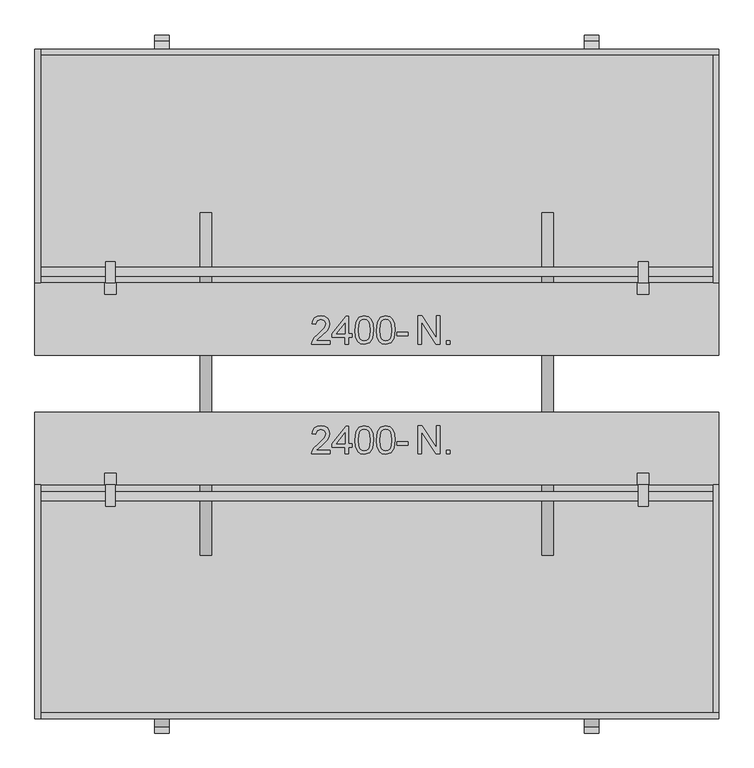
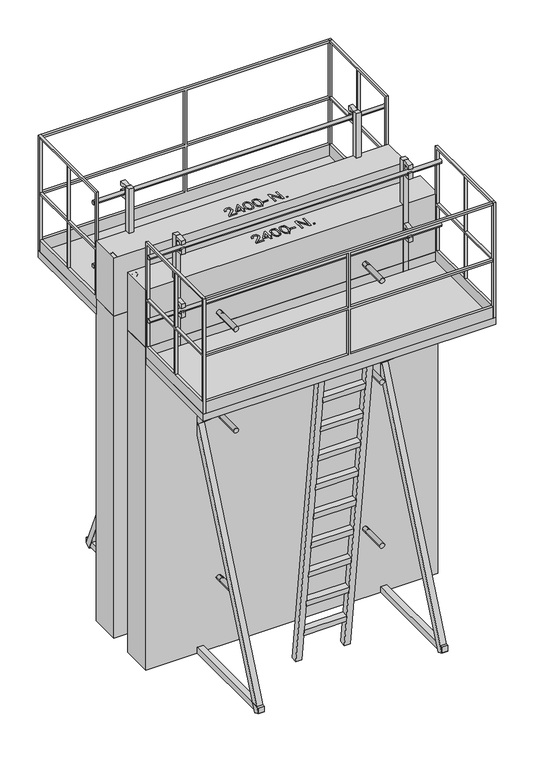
"""IFC4 building model written with IfcOpenShell, lengths in millimetres: proxy geometry, Hussor T10_Banche RNR : Hussor T10_Lg 2400_Ht 2800+500."""

from ifc_helpers import new_model, si_unit, point, frame, frame_2d, origin, origin_with_axes, place, context, project, spatial, polyline, circle_curve, trimmed, segment, composite_curve, outline, extrude, source, transform, mapped, element, save


def generic_models_483f2e62(model_context):
    return source(origin(), model_context, "Body", "SweptSolid", [
        extrude(outline(polyline([(1344.6271812, -345.1349459), (1344.6271812, -246.6734075), (1357.8002581, -246.6734075), (1409.2425658, -324.6782152), (1409.2425658, -246.6734075), (1421.5502581, -246.6734075), (1421.5502581, -345.1349459), (1408.3771812, -345.1349459), (1356.9348735, -267.1060998), (1356.9348735, -345.1349459), (1344.6271812, -345.1349459)])), origin_with_axes(), (0.0, 0.0, 1.0), 3300.0),
        extrude(outline(polyline([(1444.6271812, -345.1349459), (1444.6271812, -332.8272536), (1456.9348735, -332.8272536), (1456.9348735, -345.1349459), (1444.6271812, -345.1349459)])), origin_with_axes(), (0.0, 0.0, 1.0), 3300.0),
        extrude(outline(polyline([(1035.9319097, -332.8272536), (1035.9319097, -345.1349459), (971.316525, -345.1349459), (972.6386404, -336.649369), (980.114602, -323.5844652), (995.5232558, -309.3176383), (1016.7732558, -288.8128306), (1022.0857558, -274.8705229), (1017.0737366, -263.5844652), (1003.9847943, -258.9810998), (990.3429674, -263.4762921), (985.1626789, -275.9041767), (972.8549866, -274.3657152), (975.8387606, -262.4606671), (982.2900827, -253.7647536), (991.8724145, -248.446244), (1004.2492174, -246.6734075), (1016.7161645, -248.6445613), (1026.2804674, -254.5580229), (1032.3652029, -263.3921575), (1034.3934481, -274.1253306), (1032.2059481, -285.7960036), (1024.9343135, -297.8633113), (1007.302102, -314.7262921), (993.1434481, -326.5652344), (987.5905635, -332.8272536), (1035.9319097, -332.8272536)])), origin_with_axes(), (0.0, 0.0, 1.0), 3300.0),
        extrude(outline(polyline([(1088.239602, -345.1349459), (1088.239602, -322.0580229), (1043.6242174, -322.0580229), (1043.6242174, -309.7503306), (1091.316525, -248.211869), (1100.5472943, -248.211869), (1100.5472943, -309.7503306), (1112.8549866, -309.7503306), (1112.8549866, -322.0580229), (1100.5472943, -322.0580229), (1100.5472943, -345.1349459), (1088.239602, -345.1349459)]), holes=[polyline([(1088.239602, -309.7503306), (1088.239602, -271.7214844), (1058.7684481, -309.7503306), (1088.239602, -309.7503306)])]), origin_with_axes(), (0.0, 0.0, 1.0), 3300.0),
        extrude(outline(polyline([(1123.6242174, -296.6974459), (1127.2420058, -268.368119), (1137.9871981, -252.0339844), (1155.9319097, -246.6734075), (1170.3069097, -249.8464844), (1180.2347943, -258.993119), (1186.004025, -273.5604267), (1188.239602, -296.6974459), (1184.6578712, -324.9065806), (1173.9487366, -341.2767729), (1155.9319097, -346.6734075), (1143.1434481, -344.3296575), (1133.4319097, -337.2984075), (1126.0761404, -320.6457633), (1123.6242174, -296.6974459)]), holes=[polyline([(1135.9319097, -296.6734075), (1137.3742174, -316.0333834), (1141.7011404, -327.2383113), (1148.1434481, -332.5838642), (1155.9319097, -334.3657152), (1163.7203712, -332.5778546), (1170.1626789, -327.2142729), (1174.489602, -316.0033354), (1175.9319097, -296.6734075), (1174.5376789, -277.7491286), (1170.3549866, -266.4570613), (1163.9246981, -260.8500902), (1155.7876789, -258.9810998), (1148.083352, -260.6277344), (1141.8934481, -265.5676383), (1137.4222943, -277.5628306), (1135.9319097, -296.6734075)])]), origin_with_axes(), (0.0, 0.0, 1.0), 3300.0),
        extrude(outline(polyline([(1199.0088327, -296.6974459), (1202.6266212, -268.368119), (1213.3718135, -252.0339844), (1231.316525, -246.6734075), (1245.691525, -249.8464844), (1255.6194097, -258.993119), (1261.3886404, -273.5604267), (1263.6242174, -296.6974459), (1260.0424866, -324.9065806), (1249.333352, -341.2767729), (1231.316525, -346.6734075), (1218.5280635, -344.3296575), (1208.816525, -337.2984075), (1201.4607558, -320.6457633), (1199.0088327, -296.6974459)]), holes=[polyline([(1211.316525, -296.6734075), (1212.7588327, -316.0333834), (1217.0857558, -327.2383113), (1223.5280635, -332.5838642), (1231.316525, -334.3657152), (1239.1049866, -332.5778546), (1245.5472943, -327.2142729), (1249.8742174, -316.0033354), (1251.316525, -296.6734075), (1249.9222943, -277.7491286), (1245.739602, -266.4570613), (1239.3093135, -260.8500902), (1231.1722943, -258.9810998), (1223.4679674, -260.6277344), (1217.2780635, -265.5676383), (1212.8069097, -277.5628306), (1211.316525, -296.6734075)])]), origin_with_axes(), (0.0, 0.0, 1.0), 3300.0),
        extrude(outline(polyline([(1271.316525, -315.9041767), (1271.316525, -303.5964844), (1309.7780635, -303.5964844), (1309.7780635, -315.9041767), (1271.316525, -315.9041767)])), origin_with_axes(), (0.0, 0.0, 1.0), 3300.0),
        extrude(outline(polyline([(1344.6271812, 40.0), (1344.6271812, 138.4615385), (1357.8002581, 138.4615385), (1409.2425658, 60.4567308), (1409.2425658, 138.4615385), (1421.5502581, 138.4615385), (1421.5502581, 40.0), (1408.3771812, 40.0), (1356.9348735, 118.0288462), (1356.9348735, 40.0), (1344.6271812, 40.0)])), origin_with_axes(), (0.0, 0.0, 1.0), 3300.0),
        extrude(outline(polyline([(1444.6271812, 40.0), (1444.6271812, 52.3076923), (1456.9348735, 52.3076923), (1456.9348735, 40.0), (1444.6271812, 40.0)])), origin_with_axes(), (0.0, 0.0, 1.0), 3300.0),
        extrude(outline(polyline([(1035.9319097, 52.3076923), (1035.9319097, 40.0), (971.316525, 40.0), (972.6386404, 48.4855769), (980.114602, 61.5504808), (995.5232558, 75.8173077), (1016.7732558, 96.3221154), (1022.0857558, 110.2644231), (1017.0737366, 121.5504808), (1003.9847943, 126.1538462), (990.3429674, 121.6586538), (985.1626789, 109.2307692), (972.8549866, 110.7692308), (975.8387606, 122.6742788), (982.2900827, 131.3701923), (991.8724145, 136.6887019), (1004.2492174, 138.4615385), (1016.7161645, 136.4903846), (1026.2804674, 130.5769231), (1032.3652029, 121.7427885), (1034.3934481, 111.0096154), (1032.2059481, 99.3389423), (1024.9343135, 87.2716346), (1007.302102, 70.4086538), (993.1434481, 58.5697115), (987.5905635, 52.3076923), (1035.9319097, 52.3076923)])), origin_with_axes(), (0.0, 0.0, 1.0), 3300.0),
        extrude(outline(polyline([(1088.239602, 40.0), (1088.239602, 63.0769231), (1043.6242174, 63.0769231), (1043.6242174, 75.3846154), (1091.316525, 136.9230769), (1100.5472943, 136.9230769), (1100.5472943, 75.3846154), (1112.8549866, 75.3846154), (1112.8549866, 63.0769231), (1100.5472943, 63.0769231), (1100.5472943, 40.0), (1088.239602, 40.0)]), holes=[polyline([(1088.239602, 75.3846154), (1088.239602, 113.4134615), (1058.7684481, 75.3846154), (1088.239602, 75.3846154)])]), origin_with_axes(), (0.0, 0.0, 1.0), 3300.0),
        extrude(outline(polyline([(1123.6242174, 88.4375), (1127.2420058, 116.7668269), (1137.9871981, 133.1009615), (1155.9319097, 138.4615385), (1170.3069097, 135.2884615), (1180.2347943, 126.1418269), (1186.004025, 111.5745192), (1188.239602, 88.4375), (1184.6578712, 60.2283654), (1173.9487366, 43.8581731), (1155.9319097, 38.4615385), (1143.1434481, 40.8052885), (1133.4319097, 47.8365385), (1126.0761404, 64.4891827), (1123.6242174, 88.4375)]), holes=[polyline([(1135.9319097, 88.4615385), (1137.3742174, 69.1015625), (1141.7011404, 57.8966346), (1148.1434481, 52.5510817), (1155.9319097, 50.7692308), (1163.7203712, 52.5570913), (1170.1626789, 57.9206731), (1174.489602, 69.1316106), (1175.9319097, 88.4615385), (1174.5376789, 107.3858173), (1170.3549866, 118.6778846), (1163.9246981, 124.2848558), (1155.7876789, 126.1538462), (1148.083352, 124.5072115), (1141.8934481, 119.5673077), (1137.4222943, 107.5721154), (1135.9319097, 88.4615385)])]), origin_with_axes(), (0.0, 0.0, 1.0), 3300.0),
        extrude(outline(polyline([(1199.0088327, 88.4375), (1202.6266212, 116.7668269), (1213.3718135, 133.1009615), (1231.316525, 138.4615385), (1245.691525, 135.2884615), (1255.6194097, 126.1418269), (1261.3886404, 111.5745192), (1263.6242174, 88.4375), (1260.0424866, 60.2283654), (1249.333352, 43.8581731), (1231.316525, 38.4615385), (1218.5280635, 40.8052885), (1208.816525, 47.8365385), (1201.4607558, 64.4891827), (1199.0088327, 88.4375)]), holes=[polyline([(1211.316525, 88.4615385), (1212.7588327, 69.1015625), (1217.0857558, 57.8966346), (1223.5280635, 52.5510817), (1231.316525, 50.7692308), (1239.1049866, 52.5570913), (1245.5472943, 57.9206731), (1249.8742174, 69.1316106), (1251.316525, 88.4615385), (1249.9222943, 107.3858173), (1245.739602, 118.6778846), (1239.3093135, 124.2848558), (1231.1722943, 126.1538462), (1223.4679674, 124.5072115), (1217.2780635, 119.5673077), (1212.8069097, 107.5721154), (1211.316525, 88.4615385)])]), origin_with_axes(), (0.0, 0.0, 1.0), 3300.0),
        extrude(outline(polyline([(1271.316525, 69.2307692), (1271.316525, 81.5384615), (1309.7780635, 81.5384615), (1309.7780635, 69.2307692), (1271.316525, 69.2307692)])), origin_with_axes(), (0.0, 0.0, 1.0), 3300.0),
        extrude(outline(composite_curve([segment(polyline([(-513.510911, 3615.0), (-514.6082276, 3608.7768085)]), True, "CONTINUOUS"), segment(trimmed(circle_curve(frame_2d((-494.9120725, 3605.3038449)), 20.0), [point((-514.6082276, 3608.7768085))], [point((-475.2159175, 3601.8308814))], True, "CARTESIAN"), True, "CONTINUOUS"), segment(polyline([(-475.2159175, 3601.8308814), (-468.2699903, 3641.2231915)]), True, "CONTINUOUS"), segment(trimmed(circle_curve(frame_2d((-487.9661454, 3644.696155)), 20.0), [point((-468.2699903, 3641.2231915))], [point((-507.6623005, 3648.1691186))], True, "CARTESIAN"), True, "CONTINUOUS"), segment(polyline([(-507.6623005, 3648.1691186), (-528.939109, 3648.0), (-528.939109, 3685.0), (-453.939109, 3685.0), (-453.939109, 3565.0), (-528.939109, 3565.0), (-528.939109, 3615.0), (-513.510911, 3615.0)]), True, "CONTINUOUS")], self_intersect=False)), frame((2118.0, 0.0, 0.0), z_axis=(1.0, 0.0, 0.0), x_axis=(0.0, 1.0, 0.0)), (0.0, 0.0, 1.0), 34.0),
        extrude(outline(composite_curve([segment(polyline([(-453.939109, 3135.0), (-453.939109, 3015.0), (-528.939109, 3015.0), (-528.939109, 3065.0), (-513.510911, 3065.0), (-514.6082276, 3058.7768085)]), True, "CONTINUOUS"), segment(trimmed(circle_curve(frame_2d((-494.9120725, 3055.3038449)), 20.0), [point((-514.6082276, 3058.7768085))], [point((-475.2159175, 3051.8308814))], True, "CARTESIAN"), True, "CONTINUOUS"), segment(polyline([(-475.2159175, 3051.8308814), (-468.2699903, 3091.2231915)]), True, "CONTINUOUS"), segment(trimmed(circle_curve(frame_2d((-487.9661454, 3094.6961551)), 20.0), [point((-468.2699903, 3091.2231915))], [point((-507.6623005, 3098.1691186))], True, "CARTESIAN"), True, "CONTINUOUS"), segment(polyline([(-507.6623005, 3098.1691186), (-528.939109, 3098.0), (-528.939109, 3135.0), (-453.939109, 3135.0)]), True, "CONTINUOUS")], self_intersect=False)), frame((2118.0, 0.0, 0.0), z_axis=(1.0, 0.0, 0.0), x_axis=(0.0, 1.0, 0.0)), (0.0, 0.0, 1.0), 34.0),
        extrude(outline(composite_curve([segment(polyline([(-513.510911, 3615.0), (-514.6082276, 3608.7768085)]), True, "CONTINUOUS"), segment(trimmed(circle_curve(frame_2d((-494.9120725, 3605.3038449)), 20.0), [point((-514.6082276, 3608.7768085))], [point((-475.2159175, 3601.8308814))], True, "CARTESIAN"), True, "CONTINUOUS"), segment(polyline([(-475.2159175, 3601.8308814), (-468.2699903, 3641.2231915)]), True, "CONTINUOUS"), segment(trimmed(circle_curve(frame_2d((-487.9661454, 3644.696155)), 20.0), [point((-468.2699903, 3641.2231915))], [point((-507.6623005, 3648.1691186))], True, "CARTESIAN"), True, "CONTINUOUS"), segment(polyline([(-507.6623005, 3648.1691186), (-528.939109, 3648.0), (-528.939109, 3685.0), (-453.939109, 3685.0), (-453.939109, 3565.0), (-528.939109, 3565.0), (-528.939109, 3615.0), (-513.510911, 3615.0)]), True, "CONTINUOUS")], self_intersect=False)), frame((248.0, 0.0, 0.0), z_axis=(1.0, 0.0, 0.0), x_axis=(0.0, 1.0, 0.0)), (0.0, 0.0, 1.0), 34.0),
        extrude(outline(composite_curve([segment(polyline([(-453.939109, 3135.0), (-453.939109, 3015.0), (-528.939109, 3015.0), (-528.939109, 3065.0), (-513.510911, 3065.0), (-514.6082276, 3058.7768085)]), True, "CONTINUOUS"), segment(trimmed(circle_curve(frame_2d((-494.9120725, 3055.3038449)), 20.0), [point((-514.6082276, 3058.7768085))], [point((-475.2159175, 3051.8308814))], True, "CARTESIAN"), True, "CONTINUOUS"), segment(polyline([(-475.2159175, 3051.8308814), (-468.2699903, 3091.2231915)]), True, "CONTINUOUS"), segment(trimmed(circle_curve(frame_2d((-487.9661454, 3094.6961551)), 20.0), [point((-468.2699903, 3091.2231915))], [point((-507.6623005, 3098.1691186))], True, "CARTESIAN"), True, "CONTINUOUS"), segment(polyline([(-507.6623005, 3098.1691186), (-528.939109, 3098.0), (-528.939109, 3135.0), (-453.939109, 3135.0)]), True, "CONTINUOUS")], self_intersect=False)), frame((248.0, 0.0, 0.0), z_axis=(1.0, 0.0, 0.0), x_axis=(0.0, 1.0, 0.0)), (0.0, 0.0, 1.0), 34.0),
        extrude(outline(composite_curve([segment(trimmed(circle_curve(frame_2d((-493.939109, 3606.8733785)), 16.0), [point((-509.939109, 3606.8733785))], [point((-477.939109, 3606.8733785))], False, "CARTESIAN"), True, "CONTINUOUS"), segment(trimmed(circle_curve(frame_2d((-493.939109, 3606.8733785)), 16.0), [point((-477.939109, 3606.8733785))], [point((-509.939109, 3606.8733785))], False, "CARTESIAN"), True, "CONTINUOUS")], self_intersect=False)), frame((0.0, 0.0, 0.0), z_axis=(1.0, 0.0, 0.0), x_axis=(0.0, 1.0, 0.0)), (0.0, 0.0, 1.0), 2400.3116462),
        extrude(outline(composite_curve([segment(trimmed(circle_curve(frame_2d((-493.939109, 3056.6233785)), 16.0), [point((-509.939109, 3056.6233785))], [point((-477.939109, 3056.6233785))], False, "CARTESIAN"), True, "CONTINUOUS"), segment(trimmed(circle_curve(frame_2d((-493.939109, 3056.6233785)), 16.0), [point((-477.939109, 3056.6233785))], [point((-509.939109, 3056.6233785))], False, "CARTESIAN"), True, "CONTINUOUS")], self_intersect=False)), frame((0.0, 0.0, 0.0), z_axis=(1.0, 0.0, 0.0), x_axis=(0.0, 1.0, 0.0)), (0.0, 0.0, 1.0), 2400.3116462),
        extrude(outline(polyline([(2154.9140081, -413.939109), (2154.9140081, -453.939109), (2114.9140081, -453.939109), (2114.9140081, -413.939109), (2154.9140081, -413.939109)])), frame((0.0, 0.0, 2720.0), z_axis=(0.0, 0.0, 1.0), x_axis=(1.0, 0.0, 0.0)), (0.0, 0.0, 1.0), 965.0),
        extrude(outline(polyline([(285.0, -413.939109), (285.0, -453.939109), (245.0, -453.939109), (245.0, -413.939109), (285.0, -413.939109)])), frame((0.0, 0.0, 2720.0), z_axis=(0.0, 0.0, 1.0), x_axis=(1.0, 0.0, 0.0)), (0.0, 0.0, 1.0), 965.0),
        extrude(outline(composite_curve([segment(trimmed(circle_curve(frame_2d((600.0, 1800.0)), 20.0), [point((600.0, 1780.0))], [point((600.0, 1820.0))], False, "CARTESIAN"), True, "CONTINUOUS"), segment(trimmed(circle_curve(frame_2d((600.0, 1800.0)), 20.0), [point((600.0, 1820.0))], [point((600.0, 1780.0))], False, "CARTESIAN"), True, "CONTINUOUS")], self_intersect=False)), frame((0.0, -700.0, 0.0), z_axis=(0.0, 1.0, 0.0), x_axis=(0.0, 0.0, 1.0)), (0.0, 0.0, 1.0), 1000.0),
        extrude(outline(composite_curve([segment(trimmed(circle_curve(frame_2d((2020.0, 1800.0)), 20.0), [point((2020.0, 1780.0))], [point((2020.0, 1820.0))], False, "CARTESIAN"), True, "CONTINUOUS"), segment(trimmed(circle_curve(frame_2d((2020.0, 1800.0)), 20.0), [point((2020.0, 1820.0))], [point((2020.0, 1780.0))], False, "CARTESIAN"), True, "CONTINUOUS")], self_intersect=False)), frame((0.0, -700.0, 0.0), z_axis=(0.0, 1.0, 0.0), x_axis=(0.0, 0.0, 1.0)), (0.0, 0.0, 1.0), 1000.0),
        extrude(outline(composite_curve([segment(trimmed(circle_curve(frame_2d((2020.0, 600.0)), 20.0), [point((2020.0, 580.0))], [point((2020.0, 620.0))], False, "CARTESIAN"), True, "CONTINUOUS"), segment(trimmed(circle_curve(frame_2d((2020.0, 600.0)), 20.0), [point((2020.0, 620.0))], [point((2020.0, 580.0))], False, "CARTESIAN"), True, "CONTINUOUS")], self_intersect=False)), frame((0.0, -700.0, 0.0), z_axis=(0.0, 1.0, 0.0), x_axis=(0.0, 0.0, 1.0)), (0.0, 0.0, 1.0), 1000.0),
        extrude(outline(composite_curve([segment(trimmed(circle_curve(frame_2d((600.0, 600.0)), 20.0), [point((600.0, 580.0))], [point((600.0, 620.0))], False, "CARTESIAN"), True, "CONTINUOUS"), segment(trimmed(circle_curve(frame_2d((600.0, 600.0)), 20.0), [point((600.0, 620.0))], [point((600.0, 580.0))], False, "CARTESIAN"), True, "CONTINUOUS")], self_intersect=False)), frame((0.0, -700.0, 0.0), z_axis=(0.0, 1.0, 0.0), x_axis=(0.0, 0.0, 1.0)), (0.0, 0.0, 1.0), 1000.0),
        extrude(outline(polyline([(0.0, -993.6216584), (0.0, 0.0), (50.0, 0.0), (50.0, -993.6216584), (0.0, -993.6216584)])), frame((421.0, -462.3142578, 1994.7151475), z_axis=(0.0, 0.6662851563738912, 0.7456970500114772), x_axis=(1.0, 0.0, 0.0)), (0.0, 0.0, 1.0), 50.0),
        extrude(outline(polyline([(0.0, 993.6216584), (50.0, 993.6216584), (50.0, 0.0), (0.0, 0.0), (0.0, 993.6216584)])), frame((1979.0, -462.3142578, 1994.7151475), z_axis=(0.0, 0.6662851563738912, 0.7456970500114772), x_axis=(-1.0, 0.0, 0.0)), (0.0, 0.0, 1.0), 50.0),
        extrude(outline(polyline([(0.0, -49.9999999), (0.0, 0.0), (50.0, 0.0), (50.0, -49.9999999), (0.0, -49.9999999)])), frame((421.0, -1278.0357314, -19.6795835), z_axis=(0.0, 0.39359167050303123, 0.919285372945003), x_axis=(1.0, 0.0, 0.0)), (0.0, 0.0, 1.0), 2210.4126312),
        extrude(outline(polyline([(0.0, 49.9999999), (50.0, 49.9999999), (50.0, 0.0), (0.0, 0.0), (0.0, 49.9999999)])), frame((1979.0, -1278.0357314, -19.6795835), z_axis=(0.0, 0.39359167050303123, 0.919285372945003), x_axis=(-1.0, 0.0, 0.0)), (0.0, 0.0, 1.0), 2210.4126312),
        extrude(outline(polyline([(0.0, 350.0), (49.9999999, 350.0), (49.9999999, 0.0), (0.0, 0.0), (0.0, 350.0)])), frame((1025.0, -875.6560615, 233.2417409), z_axis=(0.0, -0.12186934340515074, 0.9925461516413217), x_axis=(0.0, -0.9925461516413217, -0.12186934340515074)), (0.0, 0.0, 1.0), 50.0),
        extrude(outline(polyline([(0.0, 350.0), (50.0, 350.0), (50.0, 0.0), (0.0, 0.0), (0.0, 350.0)])), frame((1025.0, -909.1701309, 506.1919326), z_axis=(0.0, -0.1218693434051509, 0.9925461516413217), x_axis=(0.0, -0.9925461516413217, -0.1218693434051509)), (0.0, 0.0, 1.0), 50.0),
        extrude(outline(polyline([(0.0, 350.0), (50.0, 350.0), (50.0, 0.0), (0.0, 0.0), (0.0, 350.0)])), frame((1025.0, -942.6842003, 779.1421243), z_axis=(0.0, -0.12186934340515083, 0.9925461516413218), x_axis=(0.0, -0.9925461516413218, -0.12186934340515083)), (0.0, 0.0, 1.0), 50.0),
        extrude(outline(polyline([(0.0, 350.0), (50.0, 350.0), (50.0, 0.0), (0.0, 0.0), (0.0, 350.0)])), frame((1025.0, -976.1982698, 1052.092316), z_axis=(0.0, -0.12186934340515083, 0.9925461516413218), x_axis=(0.0, -0.9925461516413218, -0.12186934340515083)), (0.0, 0.0, 1.0), 50.0),
        extrude(outline(polyline([(0.0, 350.0), (50.0, 350.0), (50.0, 0.0), (0.0, 0.0), (0.0, 350.0)])), frame((1025.0, -1009.7123392, 1325.0425077), z_axis=(0.0, -0.12186934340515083, 0.9925461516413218), x_axis=(0.0, -0.9925461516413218, -0.12186934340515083)), (0.0, 0.0, 1.0), 50.0),
        extrude(outline(polyline([(0.0, 350.0), (50.0, 350.0), (50.0, 0.0), (0.0, 0.0), (0.0, 350.0)])), frame((1025.0, -1043.2264086, 1597.9926994), z_axis=(0.0, -0.12186934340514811, 0.992546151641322), x_axis=(0.0, -0.992546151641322, -0.12186934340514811)), (0.0, 0.0, 1.0), 50.0),
        extrude(outline(polyline([(0.0, 350.0), (50.0, 350.0), (50.0, 0.0), (0.0, 0.0), (0.0, 350.0)])), frame((1025.0, -1076.7404781, 1870.9428911), z_axis=(0.0, -0.12186934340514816, 0.992546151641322), x_axis=(0.0, -0.992546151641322, -0.12186934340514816)), (0.0, 0.0, 1.0), 50.0),
        extrude(outline(polyline([(0.0, 350.0), (50.0, 350.0), (50.0, 0.0), (0.0, 0.0), (0.0, 350.0)])), frame((1025.0, -1110.2545475, 2143.8930828), z_axis=(0.0, -0.12186934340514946, 0.9925461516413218), x_axis=(0.0, -0.9925461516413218, -0.12186934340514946)), (0.0, 0.0, 1.0), 50.0),
        extrude(outline(polyline([(0.0, 350.0), (49.9999999, 350.0), (49.9999999, 0.0), (0.0, 0.0), (0.0, 350.0)])), frame((1025.0, -1143.768617, 2416.8432745), z_axis=(0.0, -0.1218693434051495, 0.9925461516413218), x_axis=(0.0, -0.9925461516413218, -0.1218693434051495)), (0.0, 0.0, 1.0), 50.0),
        extrude(outline(polyline([(0.0, 50.0), (50.0, 50.0), (50.0, 0.0), (0.0, 0.0), (0.0, 50.0)])), frame((975.0, -847.7657604, 6.0934672), z_axis=(0.0, -0.1218693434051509, 0.9925461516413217), x_axis=(0.0, -0.9925461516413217, -0.1218693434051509)), (0.0, 0.0, 1.0), 2679.9761357),
        extrude(outline(polyline([(0.0, 50.0), (50.0, 50.0), (50.0, 0.0), (0.0, 0.0), (0.0, 50.0)])), frame((1375.0, -847.7657604, 6.0934672), z_axis=(0.0, -0.1218693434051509, 0.9925461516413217), x_axis=(0.0, -0.9925461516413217, -0.1218693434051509)), (0.0, 0.0, 1.0), 2679.9761357),
        extrude(outline(polyline([(421.0, -454.0), (471.0, -454.0), (471.0, -1324.0), (421.0, -1324.0), (421.0, -454.0)])), origin_with_axes(), (0.0, 0.0, 1.0), 50.0),
        extrude(outline(polyline([(1979.0, -1324.0), (1929.0, -1324.0), (1929.0, -454.0), (1979.0, -454.0), (1979.0, -1324.0)])), origin_with_axes(), (0.0, 0.0, 1.0), 50.0),
        extrude(outline(polyline([(-1274.0, 3720.0), (-454.0, 3720.0), (-454.0, 2720.0), (-1274.0, 2720.0), (-1274.0, 3720.0)]), holes=[polyline([(-854.0, 3700.0), (-854.0, 3230.0), (-474.0, 3230.0), (-474.0, 3700.0), (-854.0, 3700.0)]), polyline([(-1254.0, 3700.0), (-1254.0, 3230.0), (-874.0, 3230.0), (-874.0, 3700.0), (-1254.0, 3700.0)]), polyline([(-874.0, 2820.0), (-874.0, 3210.0), (-1254.0, 3210.0), (-1254.0, 2820.0), (-874.0, 2820.0)]), polyline([(-474.0, 2820.0), (-474.0, 3210.0), (-854.0, 3210.0), (-854.0, 2820.0), (-474.0, 2820.0)])]), frame((0.0, 0.0, 0.0), z_axis=(1.0, 0.0, 0.0), x_axis=(0.0, 1.0, 0.0)), (0.0, 0.0, 1.0), 20.0),
        extrude(outline(polyline([(3720.0, 2400.0), (3720.0, 0.0), (2720.0, 0.0), (2720.0, 2400.0), (3720.0, 2400.0)]), holes=[polyline([(3700.0, 1190.0), (3230.0, 1190.0), (3230.0, 20.0), (3700.0, 20.0), (3700.0, 1190.0)]), polyline([(3210.0, 1190.0), (2820.0, 1190.0), (2820.0, 20.0), (3210.0, 20.0), (3210.0, 1190.0)]), polyline([(3700.0, 2380.0), (3230.0, 2380.0), (3230.0, 1210.0), (3700.0, 1210.0), (3700.0, 2380.0)]), polyline([(3210.0, 2380.0), (2820.0, 2380.0), (2820.0, 1210.0), (3210.0, 1210.0), (3210.0, 2380.0)])]), frame((0.0, -1274.0, 0.0), z_axis=(0.0, 1.0, 0.0), x_axis=(0.0, 0.0, 1.0)), (0.0, 0.0, 1.0), 20.0),
        extrude(outline(polyline([(-1274.0, 3720.0), (-454.0, 3720.0), (-454.0, 2720.0), (-1274.0, 2720.0), (-1274.0, 3720.0)]), holes=[polyline([(-854.0, 3700.0), (-854.0, 3230.0), (-474.0, 3230.0), (-474.0, 3700.0), (-854.0, 3700.0)]), polyline([(-1254.0, 3700.0), (-1254.0, 3230.0), (-874.0, 3230.0), (-874.0, 3700.0), (-1254.0, 3700.0)]), polyline([(-874.0, 2820.0), (-874.0, 3210.0), (-1254.0, 3210.0), (-1254.0, 2820.0), (-874.0, 2820.0)]), polyline([(-474.0, 2820.0), (-474.0, 3210.0), (-854.0, 3210.0), (-854.0, 2820.0), (-474.0, 2820.0)])]), frame((2380.0, 0.0, 0.0), z_axis=(1.0, 0.0, 0.0), x_axis=(0.0, 1.0, 0.0)), (0.0, 0.0, 1.0), 20.0),
        extrude(outline(polyline([(0.0, -454.0), (2400.0, -454.0), (2400.0, -1274.0), (0.0, -1274.0), (0.0, -454.0)])), frame((0.0, 0.0, 2660.0), z_axis=(0.0, 0.0, 1.0), x_axis=(1.0, 0.0, 0.0)), (0.0, 0.0, 1.0), 60.0),
        extrude(outline(polyline([(2400.0, -200.0), (2400.0, -454.0), (0.0, -454.0), (0.0, -200.0), (2400.0, -200.0)])), origin_with_axes(), (0.0, 0.0, 1.0), 2800.0),
        extrude(outline(composite_curve([segment(trimmed(circle_curve(frame_2d((2900.0, 1800.0)), 20.0), [point((2900.0, 1780.0))], [point((2900.0, 1820.0))], False, "CARTESIAN"), True, "CONTINUOUS"), segment(trimmed(circle_curve(frame_2d((2900.0, 1800.0)), 20.0), [point((2900.0, 1820.0))], [point((2900.0, 1780.0))], False, "CARTESIAN"), True, "CONTINUOUS")], self_intersect=False)), frame((0.0, -700.0, 0.0), z_axis=(0.0, 1.0, 0.0), x_axis=(0.0, 0.0, 1.0)), (0.0, 0.0, 1.0), 1000.0),
        extrude(outline(composite_curve([segment(trimmed(circle_curve(frame_2d((2900.0, 600.0)), 20.0), [point((2900.0, 580.0))], [point((2900.0, 620.0))], False, "CARTESIAN"), True, "CONTINUOUS"), segment(trimmed(circle_curve(frame_2d((2900.0, 600.0)), 20.0), [point((2900.0, 620.0))], [point((2900.0, 580.0))], False, "CARTESIAN"), True, "CONTINUOUS")], self_intersect=False)), frame((0.0, -700.0, 0.0), z_axis=(0.0, 1.0, 0.0), x_axis=(0.0, 0.0, 1.0)), (0.0, 0.0, 1.0), 1000.0),
        extrude(outline(polyline([(2400.0, -200.0), (2400.0, -454.0), (0.0, -454.0), (0.0, -200.0), (2400.0, -200.0)])), frame((0.0, 0.0, 2800.0), z_axis=(0.0, 0.0, 1.0), x_axis=(1.0, 0.0, 0.0)), (0.0, 0.0, 1.0), 500.0),
        extrude(outline(composite_curve([segment(trimmed(circle_curve(frame_2d((2900.0, 1800.0)), 20.0), [point((2900.0, 1780.0))], [point((2900.0, 1820.0))], False, "CARTESIAN"), True, "CONTINUOUS"), segment(trimmed(circle_curve(frame_2d((2900.0, 1800.0)), 20.0), [point((2900.0, 1820.0))], [point((2900.0, 1780.0))], False, "CARTESIAN"), True, "CONTINUOUS")], self_intersect=False)), frame((0.0, -500.0, 0.0), z_axis=(0.0, 1.0, 0.0), x_axis=(0.0, 0.0, 1.0)), (0.0, 0.0, 1.0), 1000.0),
        extrude(outline(composite_curve([segment(trimmed(circle_curve(frame_2d((2900.0, 600.0)), 20.0), [point((2900.0, 580.0))], [point((2900.0, 620.0))], False, "CARTESIAN"), True, "CONTINUOUS"), segment(trimmed(circle_curve(frame_2d((2900.0, 600.0)), 20.0), [point((2900.0, 620.0))], [point((2900.0, 580.0))], False, "CARTESIAN"), True, "CONTINUOUS")], self_intersect=False)), frame((0.0, -500.0, 0.0), z_axis=(0.0, 1.0, 0.0), x_axis=(0.0, 0.0, 1.0)), (0.0, 0.0, 1.0), 1000.0),
        extrude(outline(polyline([(2400.0, 0.0), (0.0, 0.0), (0.0, 254.0), (2400.0, 254.0), (2400.0, 0.0)])), frame((0.0, 0.0, 2800.0), z_axis=(0.0, 0.0, 1.0), x_axis=(1.0, 0.0, 0.0)), (0.0, 0.0, 1.0), 500.0),
        extrude(outline(composite_curve([segment(polyline([(313.510911, 3615.0), (328.939109, 3615.0), (328.939109, 3565.0), (253.939109, 3565.0), (253.939109, 3685.0), (328.939109, 3685.0), (328.939109, 3648.0), (307.6623005, 3648.1691186)]), True, "CONTINUOUS"), segment(trimmed(circle_curve(frame_2d((287.9661454, 3644.696155)), 20.0), [point((307.6623005, 3648.1691186))], [point((268.2699903, 3641.2231915))], True, "CARTESIAN"), True, "CONTINUOUS"), segment(polyline([(268.2699903, 3641.2231915), (275.2159175, 3601.8308814)]), True, "CONTINUOUS"), segment(trimmed(circle_curve(frame_2d((294.9120725, 3605.3038449)), 20.0), [point((275.2159175, 3601.8308814))], [point((314.6082276, 3608.7768085))], True, "CARTESIAN"), True, "CONTINUOUS"), segment(polyline([(314.6082276, 3608.7768085), (313.510911, 3615.0)]), True, "CONTINUOUS")], self_intersect=False)), frame((2118.0, 0.0, 0.0), z_axis=(1.0, 0.0, 0.0), x_axis=(0.0, 1.0, 0.0)), (0.0, 0.0, 1.0), 34.0),
        extrude(outline(composite_curve([segment(polyline([(253.939109, 3135.0), (328.939109, 3135.0), (328.939109, 3098.0), (307.6623005, 3098.1691186)]), True, "CONTINUOUS"), segment(trimmed(circle_curve(frame_2d((287.9661454, 3094.6961551)), 20.0), [point((307.6623005, 3098.1691186))], [point((268.2699903, 3091.2231915))], True, "CARTESIAN"), True, "CONTINUOUS"), segment(polyline([(268.2699903, 3091.2231915), (275.2159175, 3051.8308814)]), True, "CONTINUOUS"), segment(trimmed(circle_curve(frame_2d((294.9120725, 3055.3038449)), 20.0), [point((275.2159175, 3051.8308814))], [point((314.6082276, 3058.7768085))], True, "CARTESIAN"), True, "CONTINUOUS"), segment(polyline([(314.6082276, 3058.7768085), (313.510911, 3065.0), (328.939109, 3065.0), (328.939109, 3015.0), (253.939109, 3015.0), (253.939109, 3135.0)]), True, "CONTINUOUS")], self_intersect=False)), frame((2118.0, 0.0, 0.0), z_axis=(1.0, 0.0, 0.0), x_axis=(0.0, 1.0, 0.0)), (0.0, 0.0, 1.0), 34.0),
        extrude(outline(composite_curve([segment(polyline([(313.510911, 3615.0), (328.939109, 3615.0), (328.939109, 3565.0), (253.939109, 3565.0), (253.939109, 3685.0), (328.939109, 3685.0), (328.939109, 3648.0), (307.6623005, 3648.1691186)]), True, "CONTINUOUS"), segment(trimmed(circle_curve(frame_2d((287.9661454, 3644.696155)), 20.0), [point((307.6623005, 3648.1691186))], [point((268.2699903, 3641.2231915))], True, "CARTESIAN"), True, "CONTINUOUS"), segment(polyline([(268.2699903, 3641.2231915), (275.2159175, 3601.8308814)]), True, "CONTINUOUS"), segment(trimmed(circle_curve(frame_2d((294.9120725, 3605.3038449)), 20.0), [point((275.2159175, 3601.8308814))], [point((314.6082276, 3608.7768085))], True, "CARTESIAN"), True, "CONTINUOUS"), segment(polyline([(314.6082276, 3608.7768085), (313.510911, 3615.0)]), True, "CONTINUOUS")], self_intersect=False)), frame((248.0, 0.0, 0.0), z_axis=(1.0, 0.0, 0.0), x_axis=(0.0, 1.0, 0.0)), (0.0, 0.0, 1.0), 34.0),
        extrude(outline(composite_curve([segment(polyline([(253.939109, 3135.0), (328.939109, 3135.0), (328.939109, 3098.0), (307.6623005, 3098.1691186)]), True, "CONTINUOUS"), segment(trimmed(circle_curve(frame_2d((287.9661454, 3094.6961551)), 20.0), [point((307.6623005, 3098.1691186))], [point((268.2699903, 3091.2231915))], True, "CARTESIAN"), True, "CONTINUOUS"), segment(polyline([(268.2699903, 3091.2231915), (275.2159175, 3051.8308814)]), True, "CONTINUOUS"), segment(trimmed(circle_curve(frame_2d((294.9120725, 3055.3038449)), 20.0), [point((275.2159175, 3051.8308814))], [point((314.6082276, 3058.7768085))], True, "CARTESIAN"), True, "CONTINUOUS"), segment(polyline([(314.6082276, 3058.7768085), (313.510911, 3065.0), (328.939109, 3065.0), (328.939109, 3015.0), (253.939109, 3015.0), (253.939109, 3135.0)]), True, "CONTINUOUS")], self_intersect=False)), frame((248.0, 0.0, 0.0), z_axis=(1.0, 0.0, 0.0), x_axis=(0.0, 1.0, 0.0)), (0.0, 0.0, 1.0), 34.0),
        extrude(outline(composite_curve([segment(trimmed(circle_curve(frame_2d((293.939109, 3606.8733785)), 16.0), [point((309.939109, 3606.8733785))], [point((277.939109, 3606.8733785))], False, "CARTESIAN"), True, "CONTINUOUS"), segment(trimmed(circle_curve(frame_2d((293.939109, 3606.8733785)), 16.0), [point((277.939109, 3606.8733785))], [point((309.939109, 3606.8733785))], False, "CARTESIAN"), True, "CONTINUOUS")], self_intersect=False)), frame((0.0, 0.0, 0.0), z_axis=(1.0, 0.0, 0.0), x_axis=(0.0, 1.0, 0.0)), (0.0, 0.0, 1.0), 2400.3116462),
        extrude(outline(composite_curve([segment(trimmed(circle_curve(frame_2d((293.939109, 3056.6233785)), 16.0), [point((309.939109, 3056.6233785))], [point((277.939109, 3056.6233785))], False, "CARTESIAN"), True, "CONTINUOUS"), segment(trimmed(circle_curve(frame_2d((293.939109, 3056.6233785)), 16.0), [point((277.939109, 3056.6233785))], [point((309.939109, 3056.6233785))], False, "CARTESIAN"), True, "CONTINUOUS")], self_intersect=False)), frame((0.0, 0.0, 0.0), z_axis=(1.0, 0.0, 0.0), x_axis=(0.0, 1.0, 0.0)), (0.0, 0.0, 1.0), 2400.3116462),
        extrude(outline(polyline([(2154.9140081, 213.939109), (2114.9140081, 213.939109), (2114.9140081, 253.939109), (2154.9140081, 253.939109), (2154.9140081, 213.939109)])), frame((0.0, 0.0, 2720.0), z_axis=(0.0, 0.0, 1.0), x_axis=(1.0, 0.0, 0.0)), (0.0, 0.0, 1.0), 965.0),
        extrude(outline(polyline([(285.0, 213.939109), (245.0, 213.939109), (245.0, 253.939109), (285.0, 253.939109), (285.0, 213.939109)])), frame((0.0, 0.0, 2720.0), z_axis=(0.0, 0.0, 1.0), x_axis=(1.0, 0.0, 0.0)), (0.0, 0.0, 1.0), 965.0),
        extrude(outline(composite_curve([segment(trimmed(circle_curve(frame_2d((600.0, 1800.0)), 20.0), [point((600.0, 1780.0))], [point((600.0, 1820.0))], False, "CARTESIAN"), True, "CONTINUOUS"), segment(trimmed(circle_curve(frame_2d((600.0, 1800.0)), 20.0), [point((600.0, 1820.0))], [point((600.0, 1780.0))], False, "CARTESIAN"), True, "CONTINUOUS")], self_intersect=False)), frame((0.0, -500.0, 0.0), z_axis=(0.0, 1.0, 0.0), x_axis=(0.0, 0.0, 1.0)), (0.0, 0.0, 1.0), 1000.0),
        extrude(outline(composite_curve([segment(trimmed(circle_curve(frame_2d((2020.0, 1800.0)), 20.0), [point((2020.0, 1780.0))], [point((2020.0, 1820.0))], False, "CARTESIAN"), True, "CONTINUOUS"), segment(trimmed(circle_curve(frame_2d((2020.0, 1800.0)), 20.0), [point((2020.0, 1820.0))], [point((2020.0, 1780.0))], False, "CARTESIAN"), True, "CONTINUOUS")], self_intersect=False)), frame((0.0, -500.0, 0.0), z_axis=(0.0, 1.0, 0.0), x_axis=(0.0, 0.0, 1.0)), (0.0, 0.0, 1.0), 1000.0),
        extrude(outline(composite_curve([segment(trimmed(circle_curve(frame_2d((2020.0, 600.0)), 20.0), [point((2020.0, 580.0))], [point((2020.0, 620.0))], False, "CARTESIAN"), True, "CONTINUOUS"), segment(trimmed(circle_curve(frame_2d((2020.0, 600.0)), 20.0), [point((2020.0, 620.0))], [point((2020.0, 580.0))], False, "CARTESIAN"), True, "CONTINUOUS")], self_intersect=False)), frame((0.0, -500.0, 0.0), z_axis=(0.0, 1.0, 0.0), x_axis=(0.0, 0.0, 1.0)), (0.0, 0.0, 1.0), 1000.0),
        extrude(outline(composite_curve([segment(trimmed(circle_curve(frame_2d((600.0, 600.0)), 20.0), [point((600.0, 580.0))], [point((600.0, 620.0))], False, "CARTESIAN"), True, "CONTINUOUS"), segment(trimmed(circle_curve(frame_2d((600.0, 600.0)), 20.0), [point((600.0, 620.0))], [point((600.0, 580.0))], False, "CARTESIAN"), True, "CONTINUOUS")], self_intersect=False)), frame((0.0, -500.0, 0.0), z_axis=(0.0, 1.0, 0.0), x_axis=(0.0, 0.0, 1.0)), (0.0, 0.0, 1.0), 1000.0),
        extrude(outline(polyline([(0.0, 993.6216584), (50.0, 993.6216584), (50.0, 0.0), (0.0, 0.0), (0.0, 993.6216584)])), frame((421.0, 262.3142578, 1994.7151475), z_axis=(0.0, -0.6662851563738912, 0.7456970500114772), x_axis=(1.0, 0.0, 0.0)), (0.0, 0.0, 1.0), 50.0),
        extrude(outline(polyline([(0.0, -993.6216584), (0.0, 0.0), (50.0, 0.0), (50.0, -993.6216584), (0.0, -993.6216584)])), frame((1979.0, 262.3142578, 1994.7151475), z_axis=(0.0, -0.6662851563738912, 0.7456970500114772), x_axis=(-1.0, 0.0, 0.0)), (0.0, 0.0, 1.0), 50.0),
        extrude(outline(polyline([(0.0, 49.9999999), (50.0, 49.9999999), (50.0, 0.0), (0.0, 0.0), (0.0, 49.9999999)])), frame((421.0, 1078.0357314, -19.6795835), z_axis=(0.0, -0.39359167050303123, 0.919285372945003), x_axis=(1.0, 0.0, 0.0)), (0.0, 0.0, 1.0), 2210.4126312),
        extrude(outline(polyline([(0.0, -49.9999999), (0.0, 0.0), (50.0, 0.0), (50.0, -49.9999999), (0.0, -49.9999999)])), frame((1979.0, 1078.0357314, -19.6795835), z_axis=(0.0, -0.39359167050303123, 0.919285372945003), x_axis=(-1.0, 0.0, 0.0)), (0.0, 0.0, 1.0), 2210.4126312),
        extrude(outline(polyline([(0.0, -350.0), (0.0, 0.0), (49.9999999, 0.0), (49.9999999, -350.0), (0.0, -350.0)])), frame((1025.0, 675.6560615, 233.2417409), z_axis=(0.0, 0.12186934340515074, 0.9925461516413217), x_axis=(0.0, 0.9925461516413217, -0.12186934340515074)), (0.0, 0.0, 1.0), 50.0),
        extrude(outline(polyline([(0.0, -350.0), (0.0, 0.0), (50.0, 0.0), (50.0, -350.0), (0.0, -350.0)])), frame((1025.0, 709.1701309, 506.1919326), z_axis=(0.0, 0.1218693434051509, 0.9925461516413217), x_axis=(0.0, 0.9925461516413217, -0.1218693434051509)), (0.0, 0.0, 1.0), 50.0),
        extrude(outline(polyline([(0.0, -350.0), (0.0, 0.0), (50.0, 0.0), (50.0, -350.0), (0.0, -350.0)])), frame((1025.0, 742.6842003, 779.1421243), z_axis=(0.0, 0.12186934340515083, 0.9925461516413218), x_axis=(0.0, 0.9925461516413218, -0.12186934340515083)), (0.0, 0.0, 1.0), 50.0),
        extrude(outline(polyline([(0.0, -350.0), (0.0, 0.0), (50.0, 0.0), (50.0, -350.0), (0.0, -350.0)])), frame((1025.0, 776.1982698, 1052.092316), z_axis=(0.0, 0.12186934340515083, 0.9925461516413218), x_axis=(0.0, 0.9925461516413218, -0.12186934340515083)), (0.0, 0.0, 1.0), 50.0),
        extrude(outline(polyline([(0.0, -350.0), (0.0, 0.0), (50.0, 0.0), (50.0, -350.0), (0.0, -350.0)])), frame((1025.0, 809.7123392, 1325.0425077), z_axis=(0.0, 0.12186934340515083, 0.9925461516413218), x_axis=(0.0, 0.9925461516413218, -0.12186934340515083)), (0.0, 0.0, 1.0), 50.0),
        extrude(outline(polyline([(0.0, -350.0), (0.0, 0.0), (50.0, 0.0), (50.0, -350.0), (0.0, -350.0)])), frame((1025.0, 843.2264086, 1597.9926994), z_axis=(0.0, 0.12186934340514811, 0.992546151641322), x_axis=(0.0, 0.992546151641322, -0.12186934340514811)), (0.0, 0.0, 1.0), 50.0),
        extrude(outline(polyline([(0.0, -350.0), (0.0, 0.0), (50.0, 0.0), (50.0, -350.0), (0.0, -350.0)])), frame((1025.0, 876.7404781, 1870.9428911), z_axis=(0.0, 0.12186934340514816, 0.992546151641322), x_axis=(0.0, 0.992546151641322, -0.12186934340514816)), (0.0, 0.0, 1.0), 50.0),
        extrude(outline(polyline([(0.0, -350.0), (0.0, 0.0), (50.0, 0.0), (50.0, -350.0), (0.0, -350.0)])), frame((1025.0, 910.2545475, 2143.8930828), z_axis=(0.0, 0.12186934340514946, 0.9925461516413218), x_axis=(0.0, 0.9925461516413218, -0.12186934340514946)), (0.0, 0.0, 1.0), 50.0),
        extrude(outline(polyline([(0.0, -350.0), (0.0, 0.0), (49.9999999, 0.0), (49.9999999, -350.0), (0.0, -350.0)])), frame((1025.0, 943.768617, 2416.8432745), z_axis=(0.0, 0.1218693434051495, 0.9925461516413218), x_axis=(0.0, 0.9925461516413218, -0.1218693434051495)), (0.0, 0.0, 1.0), 50.0),
        extrude(outline(polyline([(0.0, -50.0), (0.0, 0.0), (50.0, 0.0), (50.0, -50.0), (0.0, -50.0)])), frame((975.0, 647.7657604, 6.0934672), z_axis=(0.0, 0.1218693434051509, 0.9925461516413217), x_axis=(0.0, 0.9925461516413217, -0.1218693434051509)), (0.0, 0.0, 1.0), 2679.9761357),
        extrude(outline(polyline([(0.0, -50.0), (0.0, 0.0), (50.0, 0.0), (50.0, -50.0), (0.0, -50.0)])), frame((1375.0, 647.7657604, 6.0934672), z_axis=(0.0, 0.1218693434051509, 0.9925461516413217), x_axis=(0.0, 0.9925461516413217, -0.1218693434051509)), (0.0, 0.0, 1.0), 2679.9761357),
        extrude(outline(polyline([(421.0, 254.0), (421.0, 1124.0), (471.0, 1124.0), (471.0, 254.0), (421.0, 254.0)])), origin_with_axes(), (0.0, 0.0, 1.0), 50.0),
        extrude(outline(polyline([(1979.0, 1124.0), (1979.0, 254.0), (1929.0, 254.0), (1929.0, 1124.0), (1979.0, 1124.0)])), origin_with_axes(), (0.0, 0.0, 1.0), 50.0),
        extrude(outline(polyline([(1074.0, 3720.0), (1074.0, 2720.0), (254.0, 2720.0), (254.0, 3720.0), (1074.0, 3720.0)]), holes=[polyline([(654.0, 3700.0), (274.0, 3700.0), (274.0, 3230.0), (654.0, 3230.0), (654.0, 3700.0)]), polyline([(1054.0, 3700.0), (674.0, 3700.0), (674.0, 3230.0), (1054.0, 3230.0), (1054.0, 3700.0)]), polyline([(674.0, 2820.0), (1054.0, 2820.0), (1054.0, 3210.0), (674.0, 3210.0), (674.0, 2820.0)]), polyline([(274.0, 2820.0), (654.0, 2820.0), (654.0, 3210.0), (274.0, 3210.0), (274.0, 2820.0)])]), frame((0.0, 0.0, 0.0), z_axis=(1.0, 0.0, 0.0), x_axis=(0.0, 1.0, 0.0)), (0.0, 0.0, 1.0), 20.0),
        extrude(outline(polyline([(3720.0, 2400.0), (3720.0, 0.0), (2720.0, 0.0), (2720.0, 2400.0), (3720.0, 2400.0)]), holes=[polyline([(3700.0, 1190.0), (3230.0, 1190.0), (3230.0, 20.0), (3700.0, 20.0), (3700.0, 1190.0)]), polyline([(3210.0, 1190.0), (2820.0, 1190.0), (2820.0, 20.0), (3210.0, 20.0), (3210.0, 1190.0)]), polyline([(3700.0, 2380.0), (3230.0, 2380.0), (3230.0, 1210.0), (3700.0, 1210.0), (3700.0, 2380.0)]), polyline([(3210.0, 2380.0), (2820.0, 2380.0), (2820.0, 1210.0), (3210.0, 1210.0), (3210.0, 2380.0)])]), frame((0.0, 1054.0, 0.0), z_axis=(0.0, 1.0, 0.0), x_axis=(0.0, 0.0, 1.0)), (0.0, 0.0, 1.0), 20.0),
        extrude(outline(polyline([(1074.0, 3720.0), (1074.0, 2720.0), (254.0, 2720.0), (254.0, 3720.0), (1074.0, 3720.0)]), holes=[polyline([(654.0, 3700.0), (274.0, 3700.0), (274.0, 3230.0), (654.0, 3230.0), (654.0, 3700.0)]), polyline([(1054.0, 3700.0), (674.0, 3700.0), (674.0, 3230.0), (1054.0, 3230.0), (1054.0, 3700.0)]), polyline([(674.0, 2820.0), (1054.0, 2820.0), (1054.0, 3210.0), (674.0, 3210.0), (674.0, 2820.0)]), polyline([(274.0, 2820.0), (654.0, 2820.0), (654.0, 3210.0), (274.0, 3210.0), (274.0, 2820.0)])]), frame((2380.0, 0.0, 0.0), z_axis=(1.0, 0.0, 0.0), x_axis=(0.0, 1.0, 0.0)), (0.0, 0.0, 1.0), 20.0),
        extrude(outline(polyline([(0.0, 254.0), (0.0, 1074.0), (2400.0, 1074.0), (2400.0, 254.0), (0.0, 254.0)])), frame((0.0, 0.0, 2660.0), z_axis=(0.0, 0.0, 1.0), x_axis=(1.0, 0.0, 0.0)), (0.0, 0.0, 1.0), 60.0),
        extrude(outline(polyline([(2400.0, 0.0), (0.0, 0.0), (0.0, 254.0), (2400.0, 254.0), (2400.0, 0.0)])), origin_with_axes(), (0.0, 0.0, 1.0), 2800.0),
        extrude(outline(polyline([(61.784475, -278.7253178), (61.784475, -287.9560871), (13.3229365, -287.9560871), (14.3145231, -281.5919044), (19.9214942, -271.7932265), (31.4779846, -261.0931063), (47.4154846, -245.7145005), (51.3998596, -235.2577698), (47.6408452, -226.7932265), (37.8241384, -223.3407025), (27.5927683, -226.7120967), (23.7075519, -236.0330102), (14.4767827, -234.879164), (16.7146132, -225.9503779), (21.5531048, -219.4284428), (38.0224558, -214.1099332), (47.3726661, -215.5882986), (54.5458933, -220.0233948), (59.1094449, -226.6489957), (60.6306288, -234.6988755), (58.9900038, -243.4518803), (53.5362779, -252.5023611), (40.3121192, -265.1495967), (29.6931288, -274.0288034), (25.5284654, -278.7253178), (61.784475, -278.7253178)])), origin_with_axes(), (0.0, 0.0, 1.0), 3300.0),
        extrude(outline(polyline([(39.0083883, 12.3486929), (29.7776191, 12.3486929), (29.7776191, 69.8967698), (21.0336287, 63.6678035), (11.3160806, 59.0073468), (11.3160806, 67.7333083), (24.8467296, 76.3691256), (33.0588691, 86.1948468), (39.0083883, 86.1948468), (39.0083883, 12.3486929)])), origin_with_axes(), (0.0, 0.0, 1.0), 3300.0),
    ])


if __name__ == "__main__":
    model = new_model("IFC4")
    model_context = context("Model", 3, world=origin())
    ifc_project = project(units=[si_unit("LENGTHUNIT", "METRE", prefix="MILLI")], contexts=[model_context])
    site = spatial("IfcSite", under=ifc_project)
    building = spatial("IfcBuilding", under=site)
    placement = place(None, origin())
    generic_models_shape = generic_models_483f2e62(model_context)
    element("IfcBuildingElementProxy", 1, Name="Hussor T10_Banche RNR : Hussor T10_Lg 2400_Ht 2800+500", ObjectType="Hussor T10_Banche RNR : Hussor T10_Lg 2400_Ht 2800+500", at=placement, inside=building, context=model_context, shape_type="MappedRepresentation", body=[
        mapped(generic_models_shape, transform((0.0, 0.0, 0.0), x_axis=(1.0, 0.0, 0.0), y_axis=(0.0, 1.0, 0.0), z_axis=(0.0, 0.0, 1.0))),
    ])
    save(model, "model.ifc")
